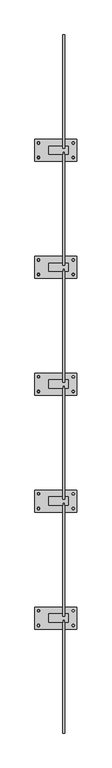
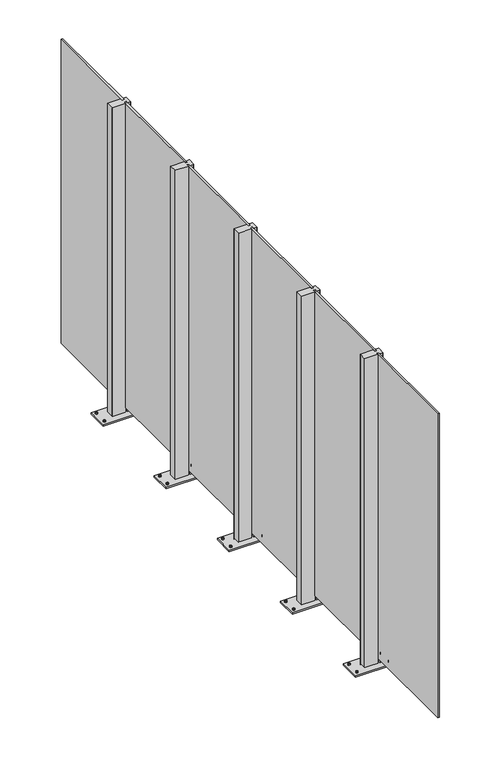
"""IFC4 building model written with IfcOpenShell, lengths in millimetres: railing geometry, TOP CONCRETE ANCHOR _TOP MOUNT STRUC_GLASS_8'."""

from ifc_helpers import new_model, si_unit, point, frame, frame_2d, origin, origin_with_axes, place, context, project, spatial, polyline, circle_curve, trimmed, segment, composite_curve, outline, extrude, source, transform, mapped, element, save


def railing_b1b01f98(model_context):
    return source(origin(), model_context, "Body", "SweptSolid", [
        extrude(outline(polyline([(101373.4372945, -65288.1475683), (101373.4372945, -64500.7475683), (101386.1372945, -64500.7475683), (101386.1372945, -65288.1475683), (101373.4372945, -65288.1475683)])), frame((0.0, 0.0, 50.8), z_axis=(0.0, 0.0, 1.0), x_axis=(1.0, 0.0, 0.0)), (0.0, 0.0, 1.0), 2387.6),
        extrude(outline(composite_curve([segment(trimmed(circle_curve(frame_2d((101445.4371375, -65352.4330987)), 7.4676494), [point((101445.4371375, -65359.9007481))], [point((101445.4371375, -65344.9654493))], False, "CARTESIAN"), True, "CONTINUOUS"), segment(trimmed(circle_curve(frame_2d((101445.4371375, -65352.4330987)), 7.4676494), [point((101445.4371375, -65344.9654493))], [point((101445.4371375, -65359.9007481))], False, "CARTESIAN"), True, "CONTINUOUS")], self_intersect=False), holes=[composite_curve([segment(trimmed(circle_curve(frame_2d((101445.4371375, -65352.4330987)), 6.5), [point((101445.4371375, -65358.9330987))], [point((101445.4371375, -65345.9330987))], True, "CARTESIAN"), True, "CONTINUOUS"), segment(trimmed(circle_curve(frame_2d((101445.4371375, -65352.4330987)), 6.5), [point((101445.4371375, -65345.9330987))], [point((101445.4371375, -65358.9330987))], True, "CARTESIAN"), True, "CONTINUOUS")], self_intersect=False)]), frame((0.0, 0.0, 20.8360792), z_axis=(0.0, 0.0, 1.0), x_axis=(1.0, 0.0, 0.0)), (0.0, 0.0, 1.0), 0.9054221),
        extrude(outline(polyline([(101454.6062411, -65352.43366), (101450.0346004, -65360.37116), (101440.8643741, -65360.37116), (101436.2927333, -65352.43366), (101440.8643741, -65344.49616), (101450.0346004, -65344.49616), (101454.6062411, -65352.43366)])), frame((0.0, 0.0, 12.7), z_axis=(0.0, 0.0, 1.0), x_axis=(1.0, 0.0, 0.0)), (0.0, 0.0, 1.0), 8.1360792),
        extrude(outline(composite_curve([segment(trimmed(circle_curve(frame_2d((101445.4371375, -65250.8342214)), 7.4676494), [point((101445.4371375, -65243.366572))], [point((101445.4371375, -65258.3018708))], False, "CARTESIAN"), True, "CONTINUOUS"), segment(trimmed(circle_curve(frame_2d((101445.4371375, -65250.8342214)), 7.4676494), [point((101445.4371375, -65258.3018708))], [point((101445.4371375, -65243.366572))], False, "CARTESIAN"), True, "CONTINUOUS")], self_intersect=False), holes=[composite_curve([segment(trimmed(circle_curve(frame_2d((101445.4371375, -65250.8342214)), 6.5), [point((101445.4371375, -65244.3342214))], [point((101445.4371375, -65257.3342214))], True, "CARTESIAN"), True, "CONTINUOUS"), segment(trimmed(circle_curve(frame_2d((101445.4371375, -65250.8342214)), 6.5), [point((101445.4371375, -65257.3342214))], [point((101445.4371375, -65244.3342214))], True, "CARTESIAN"), True, "CONTINUOUS")], self_intersect=False)]), frame((0.0, 0.0, 20.8360792), z_axis=(0.0, 0.0, 1.0), x_axis=(1.0, 0.0, 0.0)), (0.0, 0.0, 1.0), 0.9054221),
        extrude(outline(polyline([(101454.6062411, -65250.83366), (101450.0346004, -65258.77116), (101440.8643741, -65258.77116), (101436.2927333, -65250.83366), (101440.8643741, -65242.89616), (101450.0346004, -65242.89616), (101454.6062411, -65250.83366)])), frame((0.0, 0.0, 12.7), z_axis=(0.0, 0.0, 1.0), x_axis=(1.0, 0.0, 0.0)), (0.0, 0.0, 1.0), 8.1360792),
        extrude(outline(composite_curve([segment(trimmed(circle_curve(frame_2d((101204.1371375, -65352.4330987)), 7.4676494), [point((101204.1371375, -65359.9007481))], [point((101204.1371375, -65344.9654493))], False, "CARTESIAN"), True, "CONTINUOUS"), segment(trimmed(circle_curve(frame_2d((101204.1371375, -65352.4330987)), 7.4676494), [point((101204.1371375, -65344.9654493))], [point((101204.1371375, -65359.9007481))], False, "CARTESIAN"), True, "CONTINUOUS")], self_intersect=False), holes=[composite_curve([segment(trimmed(circle_curve(frame_2d((101204.1371375, -65352.4330987)), 6.5), [point((101204.1371375, -65358.9330987))], [point((101204.1371375, -65345.9330987))], True, "CARTESIAN"), True, "CONTINUOUS"), segment(trimmed(circle_curve(frame_2d((101204.1371375, -65352.4330987)), 6.5), [point((101204.1371375, -65345.9330987))], [point((101204.1371375, -65358.9330987))], True, "CARTESIAN"), True, "CONTINUOUS")], self_intersect=False)]), frame((0.0, 0.0, 20.8360792), z_axis=(0.0, 0.0, 1.0), x_axis=(1.0, 0.0, 0.0)), (0.0, 0.0, 1.0), 0.9054221),
        extrude(outline(polyline([(101194.9680339, -65352.43366), (101199.5396746, -65344.49616), (101208.7099009, -65344.49616), (101213.2815417, -65352.43366), (101208.7099009, -65360.37116), (101199.5396746, -65360.37116), (101194.9680339, -65352.43366)])), frame((0.0, 0.0, 12.7), z_axis=(0.0, 0.0, 1.0), x_axis=(1.0, 0.0, 0.0)), (0.0, 0.0, 1.0), 8.1360792),
        extrude(outline(composite_curve([segment(trimmed(circle_curve(frame_2d((101204.1371375, -65250.8342214)), 7.4676494), [point((101204.1371375, -65243.366572))], [point((101204.1371375, -65258.3018708))], False, "CARTESIAN"), True, "CONTINUOUS"), segment(trimmed(circle_curve(frame_2d((101204.1371375, -65250.8342214)), 7.4676494), [point((101204.1371375, -65258.3018708))], [point((101204.1371375, -65243.366572))], False, "CARTESIAN"), True, "CONTINUOUS")], self_intersect=False), holes=[composite_curve([segment(trimmed(circle_curve(frame_2d((101204.1371375, -65250.8342214)), 6.5), [point((101204.1371375, -65244.3342214))], [point((101204.1371375, -65257.3342214))], True, "CARTESIAN"), True, "CONTINUOUS"), segment(trimmed(circle_curve(frame_2d((101204.1371375, -65250.8342214)), 6.5), [point((101204.1371375, -65257.3342214))], [point((101204.1371375, -65244.3342214))], True, "CARTESIAN"), True, "CONTINUOUS")], self_intersect=False)]), frame((0.0, 0.0, 20.8360792), z_axis=(0.0, 0.0, 1.0), x_axis=(1.0, 0.0, 0.0)), (0.0, 0.0, 1.0), 0.9054221),
        extrude(outline(polyline([(101194.9680339, -65250.83366), (101199.5396746, -65242.89616), (101208.7099009, -65242.89616), (101213.2815417, -65250.83366), (101208.7099009, -65258.77116), (101199.5396746, -65258.77116), (101194.9680339, -65250.83366)])), frame((0.0, 0.0, 12.7), z_axis=(0.0, 0.0, 1.0), x_axis=(1.0, 0.0, 0.0)), (0.0, 0.0, 1.0), 8.1360792),
        extrude(outline(polyline([(101178.7371375, -65377.8342214), (101178.7371375, -65225.4342214), (101470.8371375, -65225.4342214), (101470.8371375, -65377.8342214), (101178.7371375, -65377.8342214)])), origin_with_axes(), (0.0, 0.0, 1.0), 12.7),
        extrude(outline(composite_curve([segment(polyline([(101373.4372945, -65273.0592214), (101373.4372945, -65288.1475683), (101386.1372945, -65288.1475683), (101386.1372945, -65273.0592214), (101411.0371375, -65273.0592214)]), True, "CONTINUOUS"), segment(trimmed(circle_curve(frame_2d((101411.0371375, -65273.5592214)), 0.5), [point((101411.0371375, -65273.0592214))], [point((101411.5371375, -65273.5592214))], False, "CARTESIAN"), True, "CONTINUOUS"), segment(polyline([(101411.5371375, -65273.5592214), (101411.5371375, -65329.7092214)]), True, "CONTINUOUS"), segment(trimmed(circle_curve(frame_2d((101411.0371375, -65329.7092214)), 0.5), [point((101411.5371375, -65329.7092214))], [point((101411.0371375, -65330.2092214))], False, "CARTESIAN"), True, "CONTINUOUS"), segment(polyline([(101411.0371375, -65330.2092214), (101386.1372945, -65330.2092214), (101386.1372945, -65313.5475683), (101373.4372945, -65313.5475683), (101373.4372945, -65330.2092214), (101274.4131375, -65330.2092214)]), True, "CONTINUOUS"), segment(trimmed(circle_curve(frame_2d((101274.4131375, -65329.7092214)), 0.5), [point((101274.4131375, -65330.2092214))], [point((101273.9131375, -65329.7092214))], False, "CARTESIAN"), True, "CONTINUOUS"), segment(polyline([(101273.9131375, -65329.7092214), (101273.9131375, -65273.5592214)]), True, "CONTINUOUS"), segment(trimmed(circle_curve(frame_2d((101274.4131375, -65273.5592214)), 0.5), [point((101273.9131375, -65273.5592214))], [point((101274.4131375, -65273.0592214))], False, "CARTESIAN"), True, "CONTINUOUS"), segment(polyline([(101274.4131375, -65273.0592214), (101373.4372945, -65273.0592214)]), True, "CONTINUOUS")], self_intersect=False)), origin_with_axes(), (0.0, 0.0, 1.0), 2438.4),
        extrude(outline(polyline([(101373.4372945, -66100.9475683), (101373.4372945, -65313.5475683), (101386.1372945, -65313.5475683), (101386.1372945, -66100.9475683), (101373.4372945, -66100.9475683)])), frame((0.0, 0.0, 50.8), z_axis=(0.0, 0.0, 1.0), x_axis=(1.0, 0.0, 0.0)), (0.0, 0.0, 1.0), 2387.6),
        extrude(outline(composite_curve([segment(trimmed(circle_curve(frame_2d((101445.4371375, -66165.2330987)), 7.4676494), [point((101445.4371375, -66172.7007481))], [point((101445.4371375, -66157.7654493))], False, "CARTESIAN"), True, "CONTINUOUS"), segment(trimmed(circle_curve(frame_2d((101445.4371375, -66165.2330987)), 7.4676494), [point((101445.4371375, -66157.7654493))], [point((101445.4371375, -66172.7007481))], False, "CARTESIAN"), True, "CONTINUOUS")], self_intersect=False), holes=[composite_curve([segment(trimmed(circle_curve(frame_2d((101445.4371375, -66165.2330987)), 6.5), [point((101445.4371375, -66171.7330987))], [point((101445.4371375, -66158.7330987))], True, "CARTESIAN"), True, "CONTINUOUS"), segment(trimmed(circle_curve(frame_2d((101445.4371375, -66165.2330987)), 6.5), [point((101445.4371375, -66158.7330987))], [point((101445.4371375, -66171.7330987))], True, "CARTESIAN"), True, "CONTINUOUS")], self_intersect=False)]), frame((0.0, 0.0, 20.8360792), z_axis=(0.0, 0.0, 1.0), x_axis=(1.0, 0.0, 0.0)), (0.0, 0.0, 1.0), 0.9054221),
        extrude(outline(polyline([(101454.6062411, -66165.23366), (101450.0346004, -66173.17116), (101440.8643741, -66173.17116), (101436.2927333, -66165.23366), (101440.8643741, -66157.29616), (101450.0346004, -66157.29616), (101454.6062411, -66165.23366)])), frame((0.0, 0.0, 12.7), z_axis=(0.0, 0.0, 1.0), x_axis=(1.0, 0.0, 0.0)), (0.0, 0.0, 1.0), 8.1360792),
        extrude(outline(composite_curve([segment(trimmed(circle_curve(frame_2d((101445.4371375, -66063.6342214)), 7.4676494), [point((101445.4371375, -66056.166572))], [point((101445.4371375, -66071.1018708))], False, "CARTESIAN"), True, "CONTINUOUS"), segment(trimmed(circle_curve(frame_2d((101445.4371375, -66063.6342214)), 7.4676494), [point((101445.4371375, -66071.1018708))], [point((101445.4371375, -66056.166572))], False, "CARTESIAN"), True, "CONTINUOUS")], self_intersect=False), holes=[composite_curve([segment(trimmed(circle_curve(frame_2d((101445.4371375, -66063.6342214)), 6.5), [point((101445.4371375, -66057.1342214))], [point((101445.4371375, -66070.1342214))], True, "CARTESIAN"), True, "CONTINUOUS"), segment(trimmed(circle_curve(frame_2d((101445.4371375, -66063.6342214)), 6.5), [point((101445.4371375, -66070.1342214))], [point((101445.4371375, -66057.1342214))], True, "CARTESIAN"), True, "CONTINUOUS")], self_intersect=False)]), frame((0.0, 0.0, 20.8360792), z_axis=(0.0, 0.0, 1.0), x_axis=(1.0, 0.0, 0.0)), (0.0, 0.0, 1.0), 0.9054221),
        extrude(outline(polyline([(101454.6062411, -66063.63366), (101450.0346004, -66071.57116), (101440.8643741, -66071.57116), (101436.2927333, -66063.63366), (101440.8643741, -66055.69616), (101450.0346004, -66055.69616), (101454.6062411, -66063.63366)])), frame((0.0, 0.0, 12.7), z_axis=(0.0, 0.0, 1.0), x_axis=(1.0, 0.0, 0.0)), (0.0, 0.0, 1.0), 8.1360792),
        extrude(outline(composite_curve([segment(trimmed(circle_curve(frame_2d((101204.1371375, -66165.2330987)), 7.4676494), [point((101204.1371375, -66172.7007481))], [point((101204.1371375, -66157.7654493))], False, "CARTESIAN"), True, "CONTINUOUS"), segment(trimmed(circle_curve(frame_2d((101204.1371375, -66165.2330987)), 7.4676494), [point((101204.1371375, -66157.7654493))], [point((101204.1371375, -66172.7007481))], False, "CARTESIAN"), True, "CONTINUOUS")], self_intersect=False), holes=[composite_curve([segment(trimmed(circle_curve(frame_2d((101204.1371375, -66165.2330987)), 6.5), [point((101204.1371375, -66171.7330987))], [point((101204.1371375, -66158.7330987))], True, "CARTESIAN"), True, "CONTINUOUS"), segment(trimmed(circle_curve(frame_2d((101204.1371375, -66165.2330987)), 6.5), [point((101204.1371375, -66158.7330987))], [point((101204.1371375, -66171.7330987))], True, "CARTESIAN"), True, "CONTINUOUS")], self_intersect=False)]), frame((0.0, 0.0, 20.8360792), z_axis=(0.0, 0.0, 1.0), x_axis=(1.0, 0.0, 0.0)), (0.0, 0.0, 1.0), 0.9054221),
        extrude(outline(polyline([(101194.9680339, -66165.23366), (101199.5396746, -66157.29616), (101208.7099009, -66157.29616), (101213.2815417, -66165.23366), (101208.7099009, -66173.17116), (101199.5396746, -66173.17116), (101194.9680339, -66165.23366)])), frame((0.0, 0.0, 12.7), z_axis=(0.0, 0.0, 1.0), x_axis=(1.0, 0.0, 0.0)), (0.0, 0.0, 1.0), 8.1360792),
        extrude(outline(composite_curve([segment(trimmed(circle_curve(frame_2d((101204.1371375, -66063.6342214)), 7.4676494), [point((101204.1371375, -66056.166572))], [point((101204.1371375, -66071.1018708))], False, "CARTESIAN"), True, "CONTINUOUS"), segment(trimmed(circle_curve(frame_2d((101204.1371375, -66063.6342214)), 7.4676494), [point((101204.1371375, -66071.1018708))], [point((101204.1371375, -66056.166572))], False, "CARTESIAN"), True, "CONTINUOUS")], self_intersect=False), holes=[composite_curve([segment(trimmed(circle_curve(frame_2d((101204.1371375, -66063.6342214)), 6.5), [point((101204.1371375, -66057.1342214))], [point((101204.1371375, -66070.1342214))], True, "CARTESIAN"), True, "CONTINUOUS"), segment(trimmed(circle_curve(frame_2d((101204.1371375, -66063.6342214)), 6.5), [point((101204.1371375, -66070.1342214))], [point((101204.1371375, -66057.1342214))], True, "CARTESIAN"), True, "CONTINUOUS")], self_intersect=False)]), frame((0.0, 0.0, 20.8360792), z_axis=(0.0, 0.0, 1.0), x_axis=(1.0, 0.0, 0.0)), (0.0, 0.0, 1.0), 0.9054221),
        extrude(outline(polyline([(101194.9680339, -66063.63366), (101199.5396746, -66055.69616), (101208.7099009, -66055.69616), (101213.2815417, -66063.63366), (101208.7099009, -66071.57116), (101199.5396746, -66071.57116), (101194.9680339, -66063.63366)])), frame((0.0, 0.0, 12.7), z_axis=(0.0, 0.0, 1.0), x_axis=(1.0, 0.0, 0.0)), (0.0, 0.0, 1.0), 8.1360792),
        extrude(outline(polyline([(101178.7371375, -66190.6342214), (101178.7371375, -66038.2342214), (101470.8371375, -66038.2342214), (101470.8371375, -66190.6342214), (101178.7371375, -66190.6342214)])), origin_with_axes(), (0.0, 0.0, 1.0), 12.7),
        extrude(outline(composite_curve([segment(polyline([(101373.4372945, -66085.8592214), (101373.4372945, -66100.9475683), (101386.1372945, -66100.9475683), (101386.1372945, -66085.8592214), (101411.0371375, -66085.8592214)]), True, "CONTINUOUS"), segment(trimmed(circle_curve(frame_2d((101411.0371375, -66086.3592214)), 0.5), [point((101411.0371375, -66085.8592214))], [point((101411.5371375, -66086.3592214))], False, "CARTESIAN"), True, "CONTINUOUS"), segment(polyline([(101411.5371375, -66086.3592214), (101411.5371375, -66142.5092214)]), True, "CONTINUOUS"), segment(trimmed(circle_curve(frame_2d((101411.0371375, -66142.5092214)), 0.5), [point((101411.5371375, -66142.5092214))], [point((101411.0371375, -66143.0092214))], False, "CARTESIAN"), True, "CONTINUOUS"), segment(polyline([(101411.0371375, -66143.0092214), (101386.1372945, -66143.0092214), (101386.1372945, -66126.3475683), (101373.4372945, -66126.3475683), (101373.4372945, -66143.0092214), (101274.4131375, -66143.0092214)]), True, "CONTINUOUS"), segment(trimmed(circle_curve(frame_2d((101274.4131375, -66142.5092214)), 0.5), [point((101274.4131375, -66143.0092214))], [point((101273.9131375, -66142.5092214))], False, "CARTESIAN"), True, "CONTINUOUS"), segment(polyline([(101273.9131375, -66142.5092214), (101273.9131375, -66086.3592214)]), True, "CONTINUOUS"), segment(trimmed(circle_curve(frame_2d((101274.4131375, -66086.3592214)), 0.5), [point((101273.9131375, -66086.3592214))], [point((101274.4131375, -66085.8592214))], False, "CARTESIAN"), True, "CONTINUOUS"), segment(polyline([(101274.4131375, -66085.8592214), (101373.4372945, -66085.8592214)]), True, "CONTINUOUS")], self_intersect=False)), origin_with_axes(), (0.0, 0.0, 1.0), 2438.4),
        extrude(outline(polyline([(101373.4372945, -66913.7475683), (101373.4372945, -66126.3475683), (101386.1372945, -66126.3475683), (101386.1372945, -66913.7475683), (101373.4372945, -66913.7475683)])), frame((0.0, 0.0, 50.8), z_axis=(0.0, 0.0, 1.0), x_axis=(1.0, 0.0, 0.0)), (0.0, 0.0, 1.0), 2387.6),
        extrude(outline(composite_curve([segment(trimmed(circle_curve(frame_2d((101445.4371375, -66978.0330987)), 7.4676494), [point((101445.4371375, -66985.5007481))], [point((101445.4371375, -66970.5654493))], False, "CARTESIAN"), True, "CONTINUOUS"), segment(trimmed(circle_curve(frame_2d((101445.4371375, -66978.0330987)), 7.4676494), [point((101445.4371375, -66970.5654493))], [point((101445.4371375, -66985.5007481))], False, "CARTESIAN"), True, "CONTINUOUS")], self_intersect=False), holes=[composite_curve([segment(trimmed(circle_curve(frame_2d((101445.4371375, -66978.0330987)), 6.5), [point((101445.4371375, -66984.5330987))], [point((101445.4371375, -66971.5330987))], True, "CARTESIAN"), True, "CONTINUOUS"), segment(trimmed(circle_curve(frame_2d((101445.4371375, -66978.0330987)), 6.5), [point((101445.4371375, -66971.5330987))], [point((101445.4371375, -66984.5330987))], True, "CARTESIAN"), True, "CONTINUOUS")], self_intersect=False)]), frame((0.0, 0.0, 20.8360792), z_axis=(0.0, 0.0, 1.0), x_axis=(1.0, 0.0, 0.0)), (0.0, 0.0, 1.0), 0.9054221),
        extrude(outline(polyline([(101454.6062411, -66978.03366), (101450.0346004, -66985.97116), (101440.8643741, -66985.97116), (101436.2927333, -66978.03366), (101440.8643741, -66970.09616), (101450.0346004, -66970.09616), (101454.6062411, -66978.03366)])), frame((0.0, 0.0, 12.7), z_axis=(0.0, 0.0, 1.0), x_axis=(1.0, 0.0, 0.0)), (0.0, 0.0, 1.0), 8.1360792),
        extrude(outline(composite_curve([segment(trimmed(circle_curve(frame_2d((101445.4371375, -66876.4342214)), 7.4676494), [point((101445.4371375, -66868.966572))], [point((101445.4371375, -66883.9018708))], False, "CARTESIAN"), True, "CONTINUOUS"), segment(trimmed(circle_curve(frame_2d((101445.4371375, -66876.4342214)), 7.4676494), [point((101445.4371375, -66883.9018708))], [point((101445.4371375, -66868.966572))], False, "CARTESIAN"), True, "CONTINUOUS")], self_intersect=False), holes=[composite_curve([segment(trimmed(circle_curve(frame_2d((101445.4371375, -66876.4342214)), 6.5), [point((101445.4371375, -66869.9342214))], [point((101445.4371375, -66882.9342214))], True, "CARTESIAN"), True, "CONTINUOUS"), segment(trimmed(circle_curve(frame_2d((101445.4371375, -66876.4342214)), 6.5), [point((101445.4371375, -66882.9342214))], [point((101445.4371375, -66869.9342214))], True, "CARTESIAN"), True, "CONTINUOUS")], self_intersect=False)]), frame((0.0, 0.0, 20.8360792), z_axis=(0.0, 0.0, 1.0), x_axis=(1.0, 0.0, 0.0)), (0.0, 0.0, 1.0), 0.9054221),
        extrude(outline(polyline([(101454.6062411, -66876.43366), (101450.0346004, -66884.37116), (101440.8643741, -66884.37116), (101436.2927333, -66876.43366), (101440.8643741, -66868.49616), (101450.0346004, -66868.49616), (101454.6062411, -66876.43366)])), frame((0.0, 0.0, 12.7), z_axis=(0.0, 0.0, 1.0), x_axis=(1.0, 0.0, 0.0)), (0.0, 0.0, 1.0), 8.1360792),
        extrude(outline(composite_curve([segment(trimmed(circle_curve(frame_2d((101204.1371375, -66978.0330987)), 7.4676494), [point((101204.1371375, -66985.5007481))], [point((101204.1371375, -66970.5654493))], False, "CARTESIAN"), True, "CONTINUOUS"), segment(trimmed(circle_curve(frame_2d((101204.1371375, -66978.0330987)), 7.4676494), [point((101204.1371375, -66970.5654493))], [point((101204.1371375, -66985.5007481))], False, "CARTESIAN"), True, "CONTINUOUS")], self_intersect=False), holes=[composite_curve([segment(trimmed(circle_curve(frame_2d((101204.1371375, -66978.0330987)), 6.5), [point((101204.1371375, -66984.5330987))], [point((101204.1371375, -66971.5330987))], True, "CARTESIAN"), True, "CONTINUOUS"), segment(trimmed(circle_curve(frame_2d((101204.1371375, -66978.0330987)), 6.5), [point((101204.1371375, -66971.5330987))], [point((101204.1371375, -66984.5330987))], True, "CARTESIAN"), True, "CONTINUOUS")], self_intersect=False)]), frame((0.0, 0.0, 20.8360792), z_axis=(0.0, 0.0, 1.0), x_axis=(1.0, 0.0, 0.0)), (0.0, 0.0, 1.0), 0.9054221),
        extrude(outline(polyline([(101194.9680339, -66978.03366), (101199.5396746, -66970.09616), (101208.7099009, -66970.09616), (101213.2815417, -66978.03366), (101208.7099009, -66985.97116), (101199.5396746, -66985.97116), (101194.9680339, -66978.03366)])), frame((0.0, 0.0, 12.7), z_axis=(0.0, 0.0, 1.0), x_axis=(1.0, 0.0, 0.0)), (0.0, 0.0, 1.0), 8.1360792),
        extrude(outline(composite_curve([segment(trimmed(circle_curve(frame_2d((101204.1371375, -66876.4342214)), 7.4676494), [point((101204.1371375, -66868.966572))], [point((101204.1371375, -66883.9018708))], False, "CARTESIAN"), True, "CONTINUOUS"), segment(trimmed(circle_curve(frame_2d((101204.1371375, -66876.4342214)), 7.4676494), [point((101204.1371375, -66883.9018708))], [point((101204.1371375, -66868.966572))], False, "CARTESIAN"), True, "CONTINUOUS")], self_intersect=False), holes=[composite_curve([segment(trimmed(circle_curve(frame_2d((101204.1371375, -66876.4342214)), 6.5), [point((101204.1371375, -66869.9342214))], [point((101204.1371375, -66882.9342214))], True, "CARTESIAN"), True, "CONTINUOUS"), segment(trimmed(circle_curve(frame_2d((101204.1371375, -66876.4342214)), 6.5), [point((101204.1371375, -66882.9342214))], [point((101204.1371375, -66869.9342214))], True, "CARTESIAN"), True, "CONTINUOUS")], self_intersect=False)]), frame((0.0, 0.0, 20.8360792), z_axis=(0.0, 0.0, 1.0), x_axis=(1.0, 0.0, 0.0)), (0.0, 0.0, 1.0), 0.9054221),
        extrude(outline(polyline([(101194.9680339, -66876.43366), (101199.5396746, -66868.49616), (101208.7099009, -66868.49616), (101213.2815417, -66876.43366), (101208.7099009, -66884.37116), (101199.5396746, -66884.37116), (101194.9680339, -66876.43366)])), frame((0.0, 0.0, 12.7), z_axis=(0.0, 0.0, 1.0), x_axis=(1.0, 0.0, 0.0)), (0.0, 0.0, 1.0), 8.1360792),
        extrude(outline(polyline([(101178.7371375, -67003.4342214), (101178.7371375, -66851.0342214), (101470.8371375, -66851.0342214), (101470.8371375, -67003.4342214), (101178.7371375, -67003.4342214)])), origin_with_axes(), (0.0, 0.0, 1.0), 12.7),
        extrude(outline(composite_curve([segment(polyline([(101373.4372945, -66898.6592214), (101373.4372945, -66913.7475683), (101386.1372945, -66913.7475683), (101386.1372945, -66898.6592214), (101411.0371375, -66898.6592214)]), True, "CONTINUOUS"), segment(trimmed(circle_curve(frame_2d((101411.0371375, -66899.1592214)), 0.5), [point((101411.0371375, -66898.6592214))], [point((101411.5371375, -66899.1592214))], False, "CARTESIAN"), True, "CONTINUOUS"), segment(polyline([(101411.5371375, -66899.1592214), (101411.5371375, -66955.3092214)]), True, "CONTINUOUS"), segment(trimmed(circle_curve(frame_2d((101411.0371375, -66955.3092214)), 0.5), [point((101411.5371375, -66955.3092214))], [point((101411.0371375, -66955.8092214))], False, "CARTESIAN"), True, "CONTINUOUS"), segment(polyline([(101411.0371375, -66955.8092214), (101386.1372945, -66955.8092214), (101386.1372945, -66939.1475683), (101373.4372945, -66939.1475683), (101373.4372945, -66955.8092214), (101274.4131375, -66955.8092214)]), True, "CONTINUOUS"), segment(trimmed(circle_curve(frame_2d((101274.4131375, -66955.3092214)), 0.5), [point((101274.4131375, -66955.8092214))], [point((101273.9131375, -66955.3092214))], False, "CARTESIAN"), True, "CONTINUOUS"), segment(polyline([(101273.9131375, -66955.3092214), (101273.9131375, -66899.1592214)]), True, "CONTINUOUS"), segment(trimmed(circle_curve(frame_2d((101274.4131375, -66899.1592214)), 0.5), [point((101273.9131375, -66899.1592214))], [point((101274.4131375, -66898.6592214))], False, "CARTESIAN"), True, "CONTINUOUS"), segment(polyline([(101274.4131375, -66898.6592214), (101373.4372945, -66898.6592214)]), True, "CONTINUOUS")], self_intersect=False)), origin_with_axes(), (0.0, 0.0, 1.0), 2438.4),
        extrude(outline(polyline([(101373.4372945, -67726.5475683), (101373.4372945, -66939.1475683), (101386.1372945, -66939.1475683), (101386.1372945, -67726.5475683), (101373.4372945, -67726.5475683)])), frame((0.0, 0.0, 50.8), z_axis=(0.0, 0.0, 1.0), x_axis=(1.0, 0.0, 0.0)), (0.0, 0.0, 1.0), 2387.6),
        extrude(outline(composite_curve([segment(trimmed(circle_curve(frame_2d((101445.4371375, -67790.8330987)), 7.4676494), [point((101445.4371375, -67798.3007481))], [point((101445.4371375, -67783.3654493))], False, "CARTESIAN"), True, "CONTINUOUS"), segment(trimmed(circle_curve(frame_2d((101445.4371375, -67790.8330987)), 7.4676494), [point((101445.4371375, -67783.3654493))], [point((101445.4371375, -67798.3007481))], False, "CARTESIAN"), True, "CONTINUOUS")], self_intersect=False), holes=[composite_curve([segment(trimmed(circle_curve(frame_2d((101445.4371375, -67790.8330987)), 6.5), [point((101445.4371375, -67797.3330987))], [point((101445.4371375, -67784.3330987))], True, "CARTESIAN"), True, "CONTINUOUS"), segment(trimmed(circle_curve(frame_2d((101445.4371375, -67790.8330987)), 6.5), [point((101445.4371375, -67784.3330987))], [point((101445.4371375, -67797.3330987))], True, "CARTESIAN"), True, "CONTINUOUS")], self_intersect=False)]), frame((0.0, 0.0, 20.8360792), z_axis=(0.0, 0.0, 1.0), x_axis=(1.0, 0.0, 0.0)), (0.0, 0.0, 1.0), 0.9054221),
        extrude(outline(polyline([(101454.6062411, -67790.83366), (101450.0346004, -67798.77116), (101440.8643741, -67798.77116), (101436.2927333, -67790.83366), (101440.8643741, -67782.89616), (101450.0346004, -67782.89616), (101454.6062411, -67790.83366)])), frame((0.0, 0.0, 12.7), z_axis=(0.0, 0.0, 1.0), x_axis=(1.0, 0.0, 0.0)), (0.0, 0.0, 1.0), 8.1360792),
        extrude(outline(composite_curve([segment(trimmed(circle_curve(frame_2d((101445.4371375, -67689.2342214)), 7.4676494), [point((101445.4371375, -67681.766572))], [point((101445.4371375, -67696.7018708))], False, "CARTESIAN"), True, "CONTINUOUS"), segment(trimmed(circle_curve(frame_2d((101445.4371375, -67689.2342214)), 7.4676494), [point((101445.4371375, -67696.7018708))], [point((101445.4371375, -67681.766572))], False, "CARTESIAN"), True, "CONTINUOUS")], self_intersect=False), holes=[composite_curve([segment(trimmed(circle_curve(frame_2d((101445.4371375, -67689.2342214)), 6.5), [point((101445.4371375, -67682.7342214))], [point((101445.4371375, -67695.7342214))], True, "CARTESIAN"), True, "CONTINUOUS"), segment(trimmed(circle_curve(frame_2d((101445.4371375, -67689.2342214)), 6.5), [point((101445.4371375, -67695.7342214))], [point((101445.4371375, -67682.7342214))], True, "CARTESIAN"), True, "CONTINUOUS")], self_intersect=False)]), frame((0.0, 0.0, 20.8360792), z_axis=(0.0, 0.0, 1.0), x_axis=(1.0, 0.0, 0.0)), (0.0, 0.0, 1.0), 0.9054221),
        extrude(outline(polyline([(101454.6062411, -67689.23366), (101450.0346004, -67697.17116), (101440.8643741, -67697.17116), (101436.2927333, -67689.23366), (101440.8643741, -67681.29616), (101450.0346004, -67681.29616), (101454.6062411, -67689.23366)])), frame((0.0, 0.0, 12.7), z_axis=(0.0, 0.0, 1.0), x_axis=(1.0, 0.0, 0.0)), (0.0, 0.0, 1.0), 8.1360792),
        extrude(outline(composite_curve([segment(trimmed(circle_curve(frame_2d((101204.1371375, -67790.8330987)), 7.4676494), [point((101204.1371375, -67798.3007481))], [point((101204.1371375, -67783.3654493))], False, "CARTESIAN"), True, "CONTINUOUS"), segment(trimmed(circle_curve(frame_2d((101204.1371375, -67790.8330987)), 7.4676494), [point((101204.1371375, -67783.3654493))], [point((101204.1371375, -67798.3007481))], False, "CARTESIAN"), True, "CONTINUOUS")], self_intersect=False), holes=[composite_curve([segment(trimmed(circle_curve(frame_2d((101204.1371375, -67790.8330987)), 6.5), [point((101204.1371375, -67797.3330987))], [point((101204.1371375, -67784.3330987))], True, "CARTESIAN"), True, "CONTINUOUS"), segment(trimmed(circle_curve(frame_2d((101204.1371375, -67790.8330987)), 6.5), [point((101204.1371375, -67784.3330987))], [point((101204.1371375, -67797.3330987))], True, "CARTESIAN"), True, "CONTINUOUS")], self_intersect=False)]), frame((0.0, 0.0, 20.8360792), z_axis=(0.0, 0.0, 1.0), x_axis=(1.0, 0.0, 0.0)), (0.0, 0.0, 1.0), 0.9054221),
        extrude(outline(polyline([(101194.9680339, -67790.83366), (101199.5396746, -67782.89616), (101208.7099009, -67782.89616), (101213.2815417, -67790.83366), (101208.7099009, -67798.77116), (101199.5396746, -67798.77116), (101194.9680339, -67790.83366)])), frame((0.0, 0.0, 12.7), z_axis=(0.0, 0.0, 1.0), x_axis=(1.0, 0.0, 0.0)), (0.0, 0.0, 1.0), 8.1360792),
        extrude(outline(composite_curve([segment(trimmed(circle_curve(frame_2d((101204.1371375, -67689.2342214)), 7.4676494), [point((101204.1371375, -67681.766572))], [point((101204.1371375, -67696.7018708))], False, "CARTESIAN"), True, "CONTINUOUS"), segment(trimmed(circle_curve(frame_2d((101204.1371375, -67689.2342214)), 7.4676494), [point((101204.1371375, -67696.7018708))], [point((101204.1371375, -67681.766572))], False, "CARTESIAN"), True, "CONTINUOUS")], self_intersect=False), holes=[composite_curve([segment(trimmed(circle_curve(frame_2d((101204.1371375, -67689.2342214)), 6.5), [point((101204.1371375, -67682.7342214))], [point((101204.1371375, -67695.7342214))], True, "CARTESIAN"), True, "CONTINUOUS"), segment(trimmed(circle_curve(frame_2d((101204.1371375, -67689.2342214)), 6.5), [point((101204.1371375, -67695.7342214))], [point((101204.1371375, -67682.7342214))], True, "CARTESIAN"), True, "CONTINUOUS")], self_intersect=False)]), frame((0.0, 0.0, 20.8360792), z_axis=(0.0, 0.0, 1.0), x_axis=(1.0, 0.0, 0.0)), (0.0, 0.0, 1.0), 0.9054221),
        extrude(outline(polyline([(101194.9680339, -67689.23366), (101199.5396746, -67681.29616), (101208.7099009, -67681.29616), (101213.2815417, -67689.23366), (101208.7099009, -67697.17116), (101199.5396746, -67697.17116), (101194.9680339, -67689.23366)])), frame((0.0, 0.0, 12.7), z_axis=(0.0, 0.0, 1.0), x_axis=(1.0, 0.0, 0.0)), (0.0, 0.0, 1.0), 8.1360792),
        extrude(outline(polyline([(101178.7371375, -67816.2342214), (101178.7371375, -67663.8342214), (101470.8371375, -67663.8342214), (101470.8371375, -67816.2342214), (101178.7371375, -67816.2342214)])), origin_with_axes(), (0.0, 0.0, 1.0), 12.7),
        extrude(outline(composite_curve([segment(polyline([(101373.4372945, -67711.4592214), (101373.4372945, -67726.5475683), (101386.1372945, -67726.5475683), (101386.1372945, -67711.4592214), (101411.0371375, -67711.4592214)]), True, "CONTINUOUS"), segment(trimmed(circle_curve(frame_2d((101411.0371375, -67711.9592214)), 0.5), [point((101411.0371375, -67711.4592214))], [point((101411.5371375, -67711.9592214))], False, "CARTESIAN"), True, "CONTINUOUS"), segment(polyline([(101411.5371375, -67711.9592214), (101411.5371375, -67768.1092214)]), True, "CONTINUOUS"), segment(trimmed(circle_curve(frame_2d((101411.0371375, -67768.1092214)), 0.5), [point((101411.5371375, -67768.1092214))], [point((101411.0371375, -67768.6092214))], False, "CARTESIAN"), True, "CONTINUOUS"), segment(polyline([(101411.0371375, -67768.6092214), (101386.1372945, -67768.6092214), (101386.1372945, -67751.9475683), (101373.4372945, -67751.9475683), (101373.4372945, -67768.6092214), (101274.4131375, -67768.6092214)]), True, "CONTINUOUS"), segment(trimmed(circle_curve(frame_2d((101274.4131375, -67768.1092214)), 0.5), [point((101274.4131375, -67768.6092214))], [point((101273.9131375, -67768.1092214))], False, "CARTESIAN"), True, "CONTINUOUS"), segment(polyline([(101273.9131375, -67768.1092214), (101273.9131375, -67711.9592214)]), True, "CONTINUOUS"), segment(trimmed(circle_curve(frame_2d((101274.4131375, -67711.9592214)), 0.5), [point((101273.9131375, -67711.9592214))], [point((101274.4131375, -67711.4592214))], False, "CARTESIAN"), True, "CONTINUOUS"), segment(polyline([(101274.4131375, -67711.4592214), (101373.4372945, -67711.4592214)]), True, "CONTINUOUS")], self_intersect=False)), origin_with_axes(), (0.0, 0.0, 1.0), 2438.4),
        extrude(outline(polyline([(101373.4372945, -68539.3475683), (101373.4372945, -67751.9475683), (101386.1372945, -67751.9475683), (101386.1372945, -68539.3475683), (101373.4372945, -68539.3475683)])), frame((0.0, 0.0, 50.8), z_axis=(0.0, 0.0, 1.0), x_axis=(1.0, 0.0, 0.0)), (0.0, 0.0, 1.0), 2387.6),
        extrude(outline(composite_curve([segment(trimmed(circle_curve(frame_2d((101445.4371375, -68603.6330987)), 7.4676494), [point((101445.4371375, -68611.1007481))], [point((101445.4371375, -68596.1654493))], False, "CARTESIAN"), True, "CONTINUOUS"), segment(trimmed(circle_curve(frame_2d((101445.4371375, -68603.6330987)), 7.4676494), [point((101445.4371375, -68596.1654493))], [point((101445.4371375, -68611.1007481))], False, "CARTESIAN"), True, "CONTINUOUS")], self_intersect=False), holes=[composite_curve([segment(trimmed(circle_curve(frame_2d((101445.4371375, -68603.6330987)), 6.5), [point((101445.4371375, -68610.1330987))], [point((101445.4371375, -68597.1330987))], True, "CARTESIAN"), True, "CONTINUOUS"), segment(trimmed(circle_curve(frame_2d((101445.4371375, -68603.6330987)), 6.5), [point((101445.4371375, -68597.1330987))], [point((101445.4371375, -68610.1330987))], True, "CARTESIAN"), True, "CONTINUOUS")], self_intersect=False)]), frame((0.0, 0.0, 20.8360792), z_axis=(0.0, 0.0, 1.0), x_axis=(1.0, 0.0, 0.0)), (0.0, 0.0, 1.0), 0.9054221),
        extrude(outline(polyline([(101454.6062411, -68603.63366), (101450.0346004, -68611.57116), (101440.8643741, -68611.57116), (101436.2927333, -68603.63366), (101440.8643741, -68595.69616), (101450.0346004, -68595.69616), (101454.6062411, -68603.63366)])), frame((0.0, 0.0, 12.7), z_axis=(0.0, 0.0, 1.0), x_axis=(1.0, 0.0, 0.0)), (0.0, 0.0, 1.0), 8.1360792),
        extrude(outline(composite_curve([segment(trimmed(circle_curve(frame_2d((101445.4371375, -68502.0342214)), 7.4676494), [point((101445.4371375, -68494.566572))], [point((101445.4371375, -68509.5018708))], False, "CARTESIAN"), True, "CONTINUOUS"), segment(trimmed(circle_curve(frame_2d((101445.4371375, -68502.0342214)), 7.4676494), [point((101445.4371375, -68509.5018708))], [point((101445.4371375, -68494.566572))], False, "CARTESIAN"), True, "CONTINUOUS")], self_intersect=False), holes=[composite_curve([segment(trimmed(circle_curve(frame_2d((101445.4371375, -68502.0342214)), 6.5), [point((101445.4371375, -68495.5342214))], [point((101445.4371375, -68508.5342214))], True, "CARTESIAN"), True, "CONTINUOUS"), segment(trimmed(circle_curve(frame_2d((101445.4371375, -68502.0342214)), 6.5), [point((101445.4371375, -68508.5342214))], [point((101445.4371375, -68495.5342214))], True, "CARTESIAN"), True, "CONTINUOUS")], self_intersect=False)]), frame((0.0, 0.0, 20.8360792), z_axis=(0.0, 0.0, 1.0), x_axis=(1.0, 0.0, 0.0)), (0.0, 0.0, 1.0), 0.9054221),
        extrude(outline(polyline([(101454.6062411, -68502.03366), (101450.0346004, -68509.97116), (101440.8643741, -68509.97116), (101436.2927333, -68502.03366), (101440.8643741, -68494.09616), (101450.0346004, -68494.09616), (101454.6062411, -68502.03366)])), frame((0.0, 0.0, 12.7), z_axis=(0.0, 0.0, 1.0), x_axis=(1.0, 0.0, 0.0)), (0.0, 0.0, 1.0), 8.1360792),
        extrude(outline(composite_curve([segment(trimmed(circle_curve(frame_2d((101204.1371375, -68603.6330987)), 7.4676494), [point((101204.1371375, -68611.1007481))], [point((101204.1371375, -68596.1654493))], False, "CARTESIAN"), True, "CONTINUOUS"), segment(trimmed(circle_curve(frame_2d((101204.1371375, -68603.6330987)), 7.4676494), [point((101204.1371375, -68596.1654493))], [point((101204.1371375, -68611.1007481))], False, "CARTESIAN"), True, "CONTINUOUS")], self_intersect=False), holes=[composite_curve([segment(trimmed(circle_curve(frame_2d((101204.1371375, -68603.6330987)), 6.5), [point((101204.1371375, -68610.1330987))], [point((101204.1371375, -68597.1330987))], True, "CARTESIAN"), True, "CONTINUOUS"), segment(trimmed(circle_curve(frame_2d((101204.1371375, -68603.6330987)), 6.5), [point((101204.1371375, -68597.1330987))], [point((101204.1371375, -68610.1330987))], True, "CARTESIAN"), True, "CONTINUOUS")], self_intersect=False)]), frame((0.0, 0.0, 20.8360792), z_axis=(0.0, 0.0, 1.0), x_axis=(1.0, 0.0, 0.0)), (0.0, 0.0, 1.0), 0.9054221),
        extrude(outline(polyline([(101194.9680339, -68603.63366), (101199.5396746, -68595.69616), (101208.7099009, -68595.69616), (101213.2815417, -68603.63366), (101208.7099009, -68611.57116), (101199.5396746, -68611.57116), (101194.9680339, -68603.63366)])), frame((0.0, 0.0, 12.7), z_axis=(0.0, 0.0, 1.0), x_axis=(1.0, 0.0, 0.0)), (0.0, 0.0, 1.0), 8.1360792),
        extrude(outline(composite_curve([segment(trimmed(circle_curve(frame_2d((101204.1371375, -68502.0342214)), 7.4676494), [point((101204.1371375, -68494.566572))], [point((101204.1371375, -68509.5018708))], False, "CARTESIAN"), True, "CONTINUOUS"), segment(trimmed(circle_curve(frame_2d((101204.1371375, -68502.0342214)), 7.4676494), [point((101204.1371375, -68509.5018708))], [point((101204.1371375, -68494.566572))], False, "CARTESIAN"), True, "CONTINUOUS")], self_intersect=False), holes=[composite_curve([segment(trimmed(circle_curve(frame_2d((101204.1371375, -68502.0342214)), 6.5), [point((101204.1371375, -68495.5342214))], [point((101204.1371375, -68508.5342214))], True, "CARTESIAN"), True, "CONTINUOUS"), segment(trimmed(circle_curve(frame_2d((101204.1371375, -68502.0342214)), 6.5), [point((101204.1371375, -68508.5342214))], [point((101204.1371375, -68495.5342214))], True, "CARTESIAN"), True, "CONTINUOUS")], self_intersect=False)]), frame((0.0, 0.0, 20.8360792), z_axis=(0.0, 0.0, 1.0), x_axis=(1.0, 0.0, 0.0)), (0.0, 0.0, 1.0), 0.9054221),
        extrude(outline(polyline([(101194.9680339, -68502.03366), (101199.5396746, -68494.09616), (101208.7099009, -68494.09616), (101213.2815417, -68502.03366), (101208.7099009, -68509.97116), (101199.5396746, -68509.97116), (101194.9680339, -68502.03366)])), frame((0.0, 0.0, 12.7), z_axis=(0.0, 0.0, 1.0), x_axis=(1.0, 0.0, 0.0)), (0.0, 0.0, 1.0), 8.1360792),
        extrude(outline(polyline([(101178.7371375, -68629.0342214), (101178.7371375, -68476.6342214), (101470.8371375, -68476.6342214), (101470.8371375, -68629.0342214), (101178.7371375, -68629.0342214)])), origin_with_axes(), (0.0, 0.0, 1.0), 12.7),
        extrude(outline(composite_curve([segment(polyline([(101373.4372945, -68524.2592214), (101373.4372945, -68539.3475683), (101386.1372945, -68539.3475683), (101386.1372945, -68524.2592214), (101411.0371375, -68524.2592214)]), True, "CONTINUOUS"), segment(trimmed(circle_curve(frame_2d((101411.0371375, -68524.7592214)), 0.5), [point((101411.0371375, -68524.2592214))], [point((101411.5371375, -68524.7592214))], False, "CARTESIAN"), True, "CONTINUOUS"), segment(polyline([(101411.5371375, -68524.7592214), (101411.5371375, -68580.9092214)]), True, "CONTINUOUS"), segment(trimmed(circle_curve(frame_2d((101411.0371375, -68580.9092214)), 0.5), [point((101411.5371375, -68580.9092214))], [point((101411.0371375, -68581.4092214))], False, "CARTESIAN"), True, "CONTINUOUS"), segment(polyline([(101411.0371375, -68581.4092214), (101386.1372945, -68581.4092214), (101386.1372945, -68564.7475683), (101373.4372945, -68564.7475683), (101373.4372945, -68581.4092214), (101274.4131375, -68581.4092214)]), True, "CONTINUOUS"), segment(trimmed(circle_curve(frame_2d((101274.4131375, -68580.9092214)), 0.5), [point((101274.4131375, -68581.4092214))], [point((101273.9131375, -68580.9092214))], False, "CARTESIAN"), True, "CONTINUOUS"), segment(polyline([(101273.9131375, -68580.9092214), (101273.9131375, -68524.7592214)]), True, "CONTINUOUS"), segment(trimmed(circle_curve(frame_2d((101274.4131375, -68524.7592214)), 0.5), [point((101273.9131375, -68524.7592214))], [point((101274.4131375, -68524.2592214))], False, "CARTESIAN"), True, "CONTINUOUS"), segment(polyline([(101274.4131375, -68524.2592214), (101373.4372945, -68524.2592214)]), True, "CONTINUOUS")], self_intersect=False)), origin_with_axes(), (0.0, 0.0, 1.0), 2438.4),
        extrude(outline(polyline([(101373.4372945, -69352.1475683), (101373.4372945, -68564.7475683), (101386.1372945, -68564.7475683), (101386.1372945, -69352.1475683), (101373.4372945, -69352.1475683)])), frame((0.0, 0.0, 50.8), z_axis=(0.0, 0.0, 1.0), x_axis=(1.0, 0.0, 0.0)), (0.0, 0.0, 1.0), 2387.6),
    ])


if __name__ == "__main__":
    model = new_model("IFC4")
    model_context = context("Model", 3, world=origin())
    ifc_project = project(units=[si_unit("LENGTHUNIT", "METRE", prefix="MILLI")], contexts=[model_context])
    site = spatial("IfcSite", under=ifc_project)
    building = spatial("IfcBuilding", under=site)
    placement = place(None, origin())
    railing_shape = railing_b1b01f98(model_context)
    element("IfcRailing", 1, ObjectType="TOP CONCRETE ANCHOR _TOP MOUNT STRUC_GLASS_8'", at=placement, inside=building, context=model_context, shape_type="MappedRepresentation", body=[
        mapped(railing_shape, transform((0.0, 0.0, 0.0), x_axis=(1.0, 0.0, 0.0), y_axis=(0.0, 1.0, 0.0), z_axis=(0.0, 0.0, 1.0))),
    ])
    save(model, "model.ifc")
